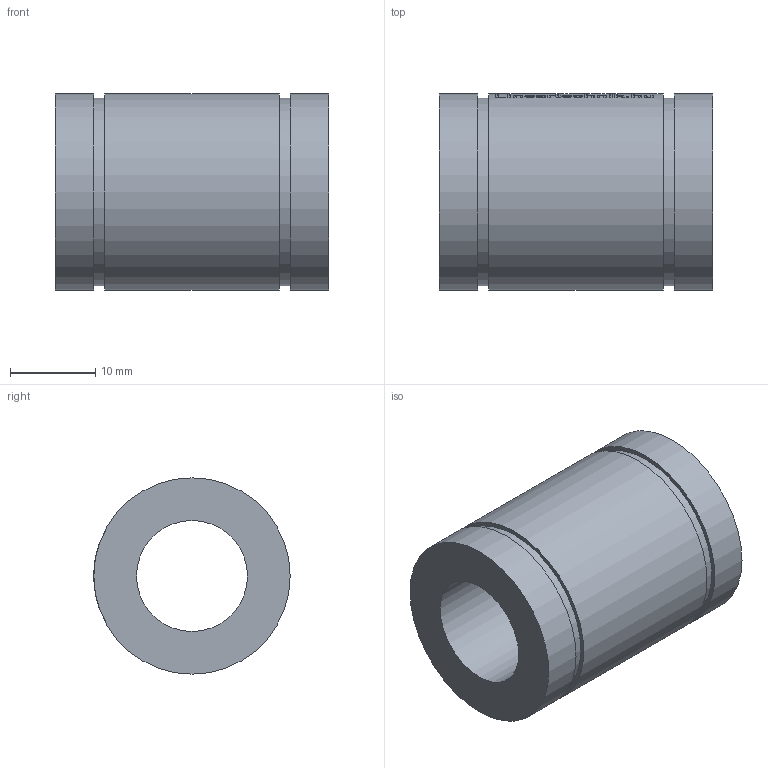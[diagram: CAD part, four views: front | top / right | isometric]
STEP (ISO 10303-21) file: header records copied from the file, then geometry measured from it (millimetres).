
FILE_DESCRIPTION(/* description */ ('Huosing for flange nuts'),/* implementation_level */ '2;1');
FILE_NAME(/* name */ 'LM13UU',/* time_stamp */ '2019-05-07T14:07:44+02:00',/* author */ ('VĂ©gh MĂˇtĂ©'),/* organization */ ('Bearing Kft'),/* preprocessor_version */ 'ST-DEVELOPER v16.7',/* originating_system */ 'DEX',/* authorisation */ $);
FILE_SCHEMA (('AUTOMOTIVE_DESIGN {1 0 10303 214 3 1 1}'));
Length unit declared in the file: millimetre
Products named in the file (1): LM13UU
Bounding box: 32 x 23 x 23 mm (x, y, z)
Volume: 8953 mm3; surface area: 4338.7 mm2
Topology: 1 solids, 1 shells, 303 faces, 762 edges, 509 vertices
Faces by surface type: plane 156, bspline 97, cylinder 50
Full cylindrical faces by diameter (mm): 13 x1, 22 x2, 23 x3
Entity records: 15319 total; most frequent: CARTESIAN_POINT 8562, ORIENTED_EDGE 1506, DIRECTION 1114, EDGE_CURVE 753, VERTEX_POINT 507, LINE 414, VECTOR 414, EDGE_LOOP 360
